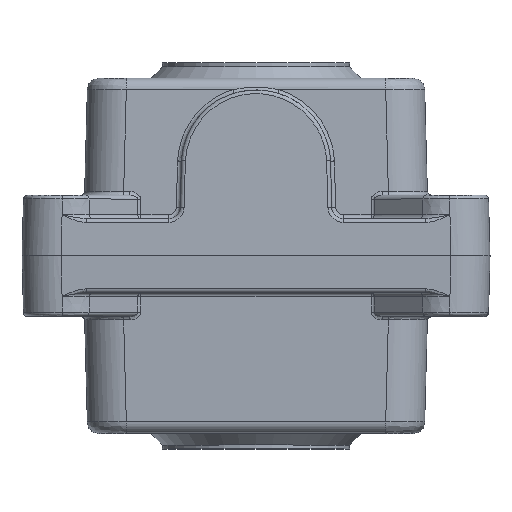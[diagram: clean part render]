
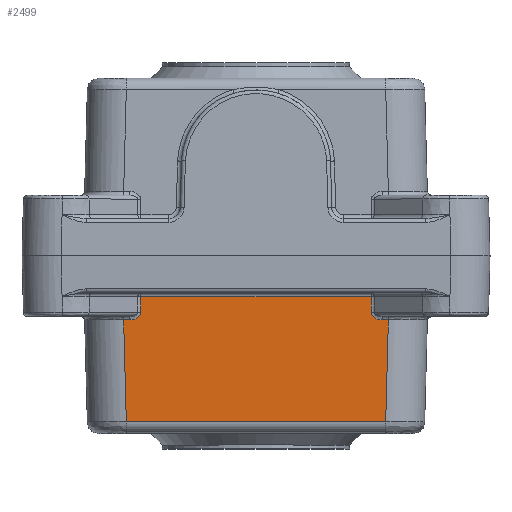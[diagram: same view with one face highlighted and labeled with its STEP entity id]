
A CAD part, top view. The second image highlights one B-rep face of the part: STEP entity #2499.
In plain terms, the highlighted planar face has unit normal (0, -0.026, 1) as drawn and (0, 0.026, -1) by its records, which use the part's own axes.
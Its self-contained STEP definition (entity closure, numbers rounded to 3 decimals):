
#2499=ADVANCED_FACE('',(#10838),#10840,.T.);
#10838=FACE_BOUND('',#10839,.T.);
#10839=EDGE_LOOP('',(#16493,#16494,#16495,#16496,#16497,#16498,#16499,#16500,#16501,
#16502));
#10840=PLANE('',#10841);
#10841=AXIS2_PLACEMENT_3D('',#10842,#10843,#10844);
#10842=CARTESIAN_POINT('',(29.976,9.5,-44.118));
#10843=DIRECTION('',(0.,0.026,-1.));
#10844=DIRECTION('',(-1.,0.,0.));
#16493=ORIENTED_EDGE('',*,*,#17863,.T.);
#16494=ORIENTED_EDGE('',*,*,#17864,.F.);
#16495=ORIENTED_EDGE('',*,*,#17865,.F.);
#16496=ORIENTED_EDGE('',*,*,#17866,.T.);
#16497=ORIENTED_EDGE('',*,*,#17867,.T.);
#16498=ORIENTED_EDGE('',*,*,#17868,.F.);
#16499=ORIENTED_EDGE('',*,*,#17869,.T.);
#16500=ORIENTED_EDGE('',*,*,#17870,.T.);
#16501=ORIENTED_EDGE('',*,*,#17835,.F.);
#16502=ORIENTED_EDGE('',*,*,#17862,.F.);
#17835=EDGE_CURVE('',#19136,#19139,#19140,.T.);
#17862=EDGE_CURVE('',#19184,#19136,#19186,.T.);
#17863=EDGE_CURVE('',#19184,#19187,#19188,.T.);
#17864=EDGE_CURVE('',#19189,#19187,#19190,.F.);
#17865=EDGE_CURVE('',#19191,#19189,#19192,.T.);
#17866=EDGE_CURVE('',#19191,#19193,#19194,.T.);
#17867=EDGE_CURVE('',#19193,#19195,#19196,.T.);
#17868=EDGE_CURVE('',#19197,#19195,#19198,.T.);
#17869=EDGE_CURVE('',#19197,#19199,#19200,.T.);
#17870=EDGE_CURVE('',#19199,#19139,#19201,.T.);
#19136=VERTEX_POINT('',#29276);
#19139=VERTEX_POINT('',#29377);
#19140=LINE('',#29378,#29379);
#19184=VERTEX_POINT('',#29843);
#19186=LINE('',#29935,#29936);
#19187=VERTEX_POINT('',#29938);
#19188=LINE('',#29939,#29940);
#19189=VERTEX_POINT('',#29942);
#19190=B_SPLINE_CURVE_WITH_KNOTS('',3,
(#29943,#29944,#29945,#29946,#29947,#29948,#29949,#29950,#29951,#29952,#29953,#29954,
#29955,#29956,#29957,#29958,#29959,#29960,#29961,#29962,#29963,#29964,#29965,#29966,
#29967,#29968),
.UNSPECIFIED.,.F.,.F.,
(4,2,2,2,2,2,2,2,2,2,2,2,4),
(0.,0.122,0.244,0.36,0.462,0.552,
0.633,0.708,0.779,0.848,0.916,
0.985,1.),
.UNSPECIFIED.);
#19191=VERTEX_POINT('',#29969);
#19192=LINE('',#29970,#29971);
#19193=VERTEX_POINT('',#29973);
#19194=LINE('',#29974,#29975);
#19195=VERTEX_POINT('',#29977);
#19196=LINE('',#29978,#29979);
#19197=VERTEX_POINT('',#29981);
#19198=B_SPLINE_CURVE_WITH_KNOTS('',3,
(#29982,#29983,#29984,#29985,#29986,#29987,#29988,#29989,#29990,#29991,#29992,#29993,
#29994,#29995,#29996,#29997,#29998,#29999,#30000,#30001,#30002,#30003,#30004,#30005,
#30006,#30007),
.UNSPECIFIED.,.F.,.F.,
(4,2,2,2,2,2,2,2,2,2,2,2,4),
(0.,0.122,0.244,0.36,0.462,0.552,
0.633,0.708,0.779,0.848,0.916,
0.985,1.),
.UNSPECIFIED.);
#19199=VERTEX_POINT('',#30008);
#19200=LINE('',#30009,#30010);
#19201=LINE('',#30012,#30013);
#29276=CARTESIAN_POINT('',(33.256,42.579,-43.252));
#29377=CARTESIAN_POINT('',(-33.256,42.579,-43.252));
#29378=CARTESIAN_POINT('',(33.256,42.579,-43.252));
#29379=VECTOR('',#29380,1.);
#29380=DIRECTION('',(-1.,0.,0.));
#29843=CARTESIAN_POINT('',(33.939,16.474,-43.936));
#29935=CARTESIAN_POINT('',(33.939,16.474,-43.936));
#29936=VECTOR('',#29937,1.);
#29937=DIRECTION('',(-0.026,0.999,0.026));
#29938=CARTESIAN_POINT('',(32.393,16.474,-43.936));
#29939=CARTESIAN_POINT('',(33.939,16.474,-43.936));
#29940=VECTOR('',#29941,1.);
#29941=DIRECTION('',(-1.,0.,0.));
#29942=CARTESIAN_POINT('',(29.617,14.526,-43.987));
#29943=CARTESIAN_POINT('',(32.393,16.474,-43.936));
#29944=CARTESIAN_POINT('',(32.23,16.469,-43.936));
#29945=CARTESIAN_POINT('',(32.066,16.465,-43.936));
#29946=CARTESIAN_POINT('',(31.733,16.422,-43.937));
#29947=CARTESIAN_POINT('',(31.56,16.389,-43.938));
#29948=CARTESIAN_POINT('',(31.238,16.301,-43.94));
#29949=CARTESIAN_POINT('',(31.081,16.248,-43.942));
#29950=CARTESIAN_POINT('',(30.804,16.127,-43.945));
#29951=CARTESIAN_POINT('',(30.677,16.062,-43.946));
#29952=CARTESIAN_POINT('',(30.458,15.926,-43.95));
#29953=CARTESIAN_POINT('',(30.361,15.856,-43.952));
#29954=CARTESIAN_POINT('',(30.194,15.717,-43.955));
#29955=CARTESIAN_POINT('',(30.12,15.647,-43.957));
#29956=CARTESIAN_POINT('',(29.994,15.508,-43.961));
#29957=CARTESIAN_POINT('',(29.94,15.438,-43.963));
#29958=CARTESIAN_POINT('',(29.846,15.301,-43.966));
#29959=CARTESIAN_POINT('',(29.806,15.232,-43.968));
#29960=CARTESIAN_POINT('',(29.74,15.097,-43.972));
#29961=CARTESIAN_POINT('',(29.712,15.03,-43.973));
#29962=CARTESIAN_POINT('',(29.668,14.897,-43.977));
#29963=CARTESIAN_POINT('',(29.652,14.831,-43.979));
#29964=CARTESIAN_POINT('',(29.627,14.699,-43.982));
#29965=CARTESIAN_POINT('',(29.62,14.634,-43.984));
#29966=CARTESIAN_POINT('',(29.617,14.555,-43.986));
#29967=CARTESIAN_POINT('',(29.617,14.541,-43.986));
#29968=CARTESIAN_POINT('',(29.617,14.526,-43.987));
#29969=CARTESIAN_POINT('',(29.573,10.474,-44.093));
#29970=CARTESIAN_POINT('',(29.573,10.474,-44.093));
#29971=VECTOR('',#29972,1.);
#29972=DIRECTION('',(0.011,1.,0.026));
#29973=CARTESIAN_POINT('',(-29.573,10.474,-44.093));
#29974=CARTESIAN_POINT('',(29.573,10.474,-44.093));
#29975=VECTOR('',#29976,1.);
#29976=DIRECTION('',(-1.,0.,0.));
#29977=CARTESIAN_POINT('',(-29.617,14.526,-43.987));
#29978=CARTESIAN_POINT('',(-29.573,10.474,-44.093));
#29979=VECTOR('',#29980,1.);
#29980=DIRECTION('',(-0.011,1.,0.026));
#29981=CARTESIAN_POINT('',(-32.393,16.474,-43.936));
#29982=CARTESIAN_POINT('',(-32.393,16.474,-43.936));
#29983=CARTESIAN_POINT('',(-32.23,16.469,-43.936));
#29984=CARTESIAN_POINT('',(-32.066,16.465,-43.936));
#29985=CARTESIAN_POINT('',(-31.733,16.422,-43.937));
#29986=CARTESIAN_POINT('',(-31.56,16.389,-43.938));
#29987=CARTESIAN_POINT('',(-31.238,16.301,-43.94));
#29988=CARTESIAN_POINT('',(-31.081,16.248,-43.942));
#29989=CARTESIAN_POINT('',(-30.804,16.127,-43.945));
#29990=CARTESIAN_POINT('',(-30.677,16.062,-43.946));
#29991=CARTESIAN_POINT('',(-30.458,15.926,-43.95));
#29992=CARTESIAN_POINT('',(-30.361,15.856,-43.952));
#29993=CARTESIAN_POINT('',(-30.194,15.717,-43.955));
#29994=CARTESIAN_POINT('',(-30.12,15.647,-43.957));
#29995=CARTESIAN_POINT('',(-29.994,15.508,-43.961));
#29996=CARTESIAN_POINT('',(-29.94,15.438,-43.963));
#29997=CARTESIAN_POINT('',(-29.846,15.301,-43.966));
#29998=CARTESIAN_POINT('',(-29.806,15.232,-43.968));
#29999=CARTESIAN_POINT('',(-29.74,15.097,-43.972));
#30000=CARTESIAN_POINT('',(-29.712,15.03,-43.973));
#30001=CARTESIAN_POINT('',(-29.668,14.897,-43.977));
#30002=CARTESIAN_POINT('',(-29.652,14.831,-43.979));
#30003=CARTESIAN_POINT('',(-29.627,14.699,-43.982));
#30004=CARTESIAN_POINT('',(-29.62,14.634,-43.984));
#30005=CARTESIAN_POINT('',(-29.617,14.555,-43.986));
#30006=CARTESIAN_POINT('',(-29.617,14.541,-43.986));
#30007=CARTESIAN_POINT('',(-29.617,14.526,-43.987));
#30008=CARTESIAN_POINT('',(-33.939,16.474,-43.936));
#30009=CARTESIAN_POINT('',(-32.393,16.474,-43.936));
#30010=VECTOR('',#30011,1.);
#30011=DIRECTION('',(-1.,0.,0.));
#30012=CARTESIAN_POINT('',(-33.939,16.474,-43.936));
#30013=VECTOR('',#30014,1.);
#30014=DIRECTION('',(0.026,0.999,0.026));
